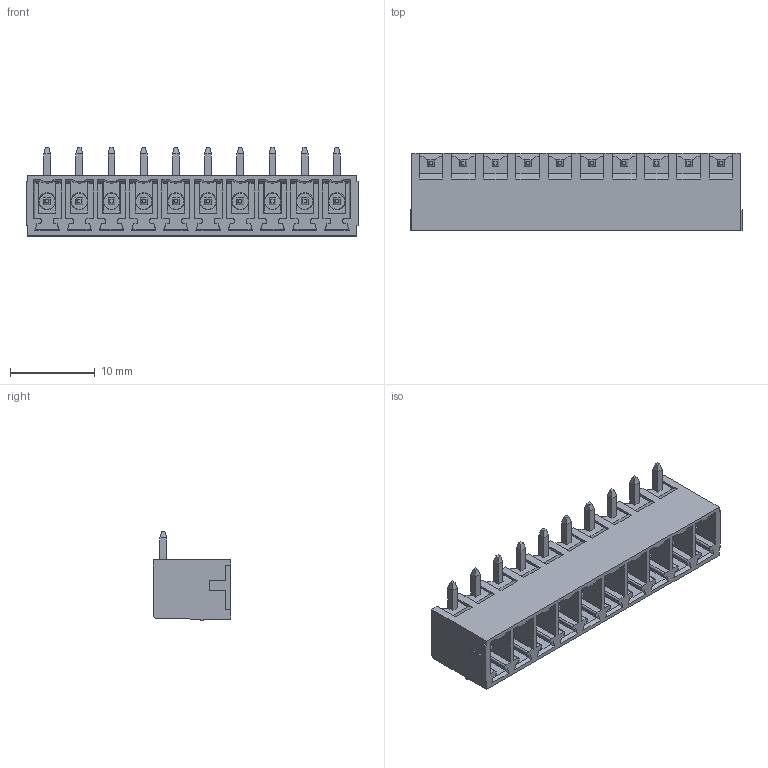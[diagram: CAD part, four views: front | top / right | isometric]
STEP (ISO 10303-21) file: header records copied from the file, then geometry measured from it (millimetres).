
FILE_DESCRIPTION(('FreeCAD Model'),'2;1');
FILE_NAME('Open CASCADE Shape Model','2023-05-24T16:20:03',('Author'),( ''),'Open CASCADE STEP processor 7.6','FreeCAD','Unknown');
FILE_SCHEMA(('AUTOMOTIVE_DESIGN { 1 0 10303 214 1 1 1 1 }'));
Products named in the file (1): BR7MN2-10
Bounding box: 39.29 x 9.2 x 10.6 mm (x, y, z)
Volume: 1195.9 mm3; surface area: 3600.2 mm2
Topology: 1 solids, 11 shells, 867 faces, 2225 edges, 1400 vertices
Faces by surface type: plane 756, cylinder 61, cone 30, sphere 20
Entity records: 55505 total; most frequent: CARTESIAN_POINT 10537, DIRECTION 8424, LINE 6131, VECTOR 6131, ORIENTED_EDGE 4410, PCURVE 4410, DEFINITIONAL_REPRESENTATION 4410, EDGE_CURVE 2205
